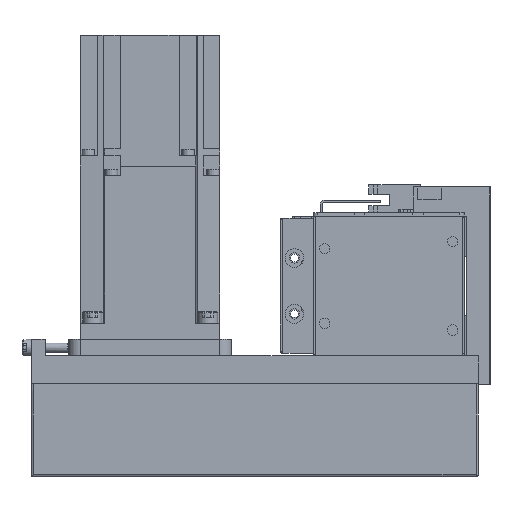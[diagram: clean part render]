
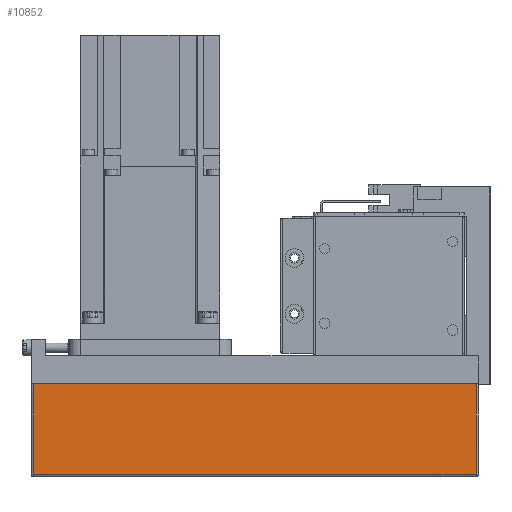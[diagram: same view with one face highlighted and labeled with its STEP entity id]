
A CAD part, left-side view. The second image highlights one B-rep face of the part: STEP entity #10852.
In plain terms, the highlighted planar face has unit normal (-1, 0, 0).
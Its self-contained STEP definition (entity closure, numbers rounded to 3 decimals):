
#2534=ORIENTED_EDGE('',*,*,#4603,.T.);
#2535=ORIENTED_EDGE('',*,*,#4604,.T.);
#2536=ORIENTED_EDGE('',*,*,#4605,.F.);
#2537=ORIENTED_EDGE('',*,*,#4606,.T.);
#4603=EDGE_CURVE('',#5826,#5827,#6866,.T.);
#4604=EDGE_CURVE('',#5827,#5828,#6867,.T.);
#4605=EDGE_CURVE('',#5829,#5828,#6868,.T.);
#4606=EDGE_CURVE('',#5829,#5826,#6869,.T.);
#5826=VERTEX_POINT('',#17434);
#5827=VERTEX_POINT('',#17435);
#5828=VERTEX_POINT('',#17437);
#5829=VERTEX_POINT('',#17439);
#6866=LINE('',#17433,#7914);
#6867=LINE('',#17436,#7915);
#6868=LINE('',#17438,#7916);
#6869=LINE('',#17440,#7917);
#7914=VECTOR('',#14241,1000.);
#7915=VECTOR('',#14242,1000.);
#7916=VECTOR('',#14243,1000.);
#7917=VECTOR('',#14244,1000.);
#8900=EDGE_LOOP('',(#2534,#2535,#2536,#2537));
#9774=FACE_BOUND('',#8900,.T.);
#10322=PLANE('',#11838);
#10852=ADVANCED_FACE('',(#9774),#10322,.T.);
#11838=AXIS2_PLACEMENT_3D('',#17432,#14239,#14240);
#14239=DIRECTION('',(-1.,0.,0.));
#14240=DIRECTION('',(0.,0.,1.));
#14241=DIRECTION('',(0.,0.,1.));
#14242=DIRECTION('',(0.,1.,0.));
#14243=DIRECTION('',(0.,0.,1.));
#14244=DIRECTION('',(0.,-1.,0.));
#17432=CARTESIAN_POINT('',(-40.,151.,-52.));
#17433=CARTESIAN_POINT('',(-40.,-40.,-64.));
#17434=CARTESIAN_POINT('',(-40.,-40.,-51.));
#17435=CARTESIAN_POINT('',(-40.,-40.,-12.01));
#17436=CARTESIAN_POINT('',(-40.,151.,-12.01));
#17437=CARTESIAN_POINT('',(-40.,150.,-12.01));
#17438=CARTESIAN_POINT('',(-40.,150.,-64.));
#17439=CARTESIAN_POINT('',(-40.,150.,-51.));
#17440=CARTESIAN_POINT('',(-40.,200.,-51.));
